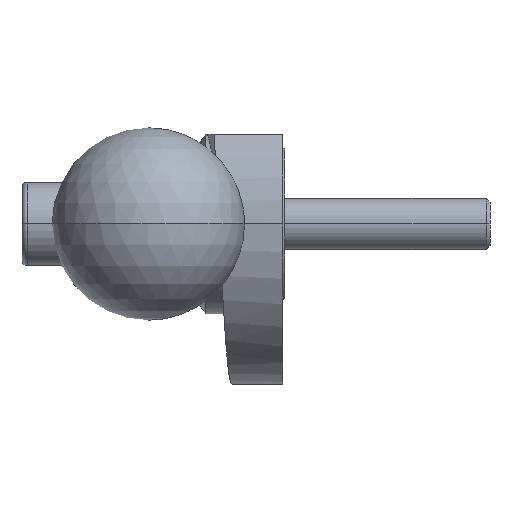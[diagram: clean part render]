
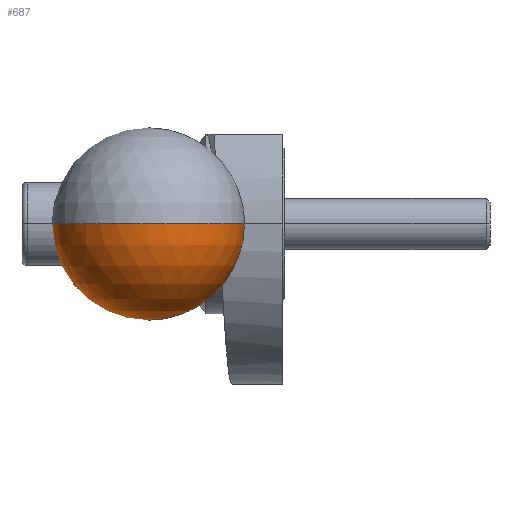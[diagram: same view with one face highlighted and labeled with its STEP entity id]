
A CAD part, left-side view. The second image highlights one B-rep face of the part: STEP entity #687.
In plain terms, the highlighted spherical face has radius 15 mm.
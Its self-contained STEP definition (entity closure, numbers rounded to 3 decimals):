
#65 = CARTESIAN_POINT ( 'NONE',  ( -101., 9., 0. ) ) ;
#155 = DIRECTION ( 'NONE',  ( 0., 1., 0. ) ) ;
#176 = DIRECTION ( 'NONE',  ( 1., 0., 0. ) ) ;
#285 = CARTESIAN_POINT ( 'NONE',  ( -116., 9., 0. ) ) ;
#357 = DIRECTION ( 'NONE',  ( 0., 0., -1. ) ) ;
#362 = DIRECTION ( 'NONE',  ( 1., 0., 0. ) ) ;
#366 = CARTESIAN_POINT ( 'NONE',  ( -101., 9., 0. ) ) ;
#474 = CARTESIAN_POINT ( 'NONE',  ( -88., 9., 0. ) ) ;
#475 = ORIENTED_EDGE ( 'NONE', *, *, #1664, .F. ) ;
#485 = VERTEX_POINT ( 'NONE', #285 ) ;
#518 = ORIENTED_EDGE ( 'NONE', *, *, #1148, .F. ) ;
#542 = ORIENTED_EDGE ( 'NONE', *, *, #1790, .T. ) ;
#543 = CIRCLE ( 'NONE', #1328, 7.483 ) ;
#687 = ADVANCED_FACE ( 'NONE', ( #1899 ), #1128, .T. ) ;
#872 = CIRCLE ( 'NONE', #1516, 15. ) ;
#984 = DIRECTION ( 'NONE',  ( 0., -1., 0. ) ) ;
#1002 = AXIS2_PLACEMENT_3D ( 'NONE', #366, #357, #984 ) ;
#1004 = DIRECTION ( 'NONE',  ( 0., 0., -1. ) ) ;
#1016 = DIRECTION ( 'NONE',  ( 0., 1., 0. ) ) ;
#1039 = CIRCLE ( 'NONE', #1257, 15. ) ;
#1128 = SPHERICAL_SURFACE ( 'NONE', #1002, 15. ) ;
#1136 = DIRECTION ( 'NONE',  ( 0., 0., 1. ) ) ;
#1147 = CARTESIAN_POINT ( 'NONE',  ( -101., 9., 0. ) ) ;
#1148 = EDGE_CURVE ( 'NONE', #485, #1677, #1039, .T. ) ;
#1151 = VERTEX_POINT ( 'NONE', #1930 ) ;
#1257 = AXIS2_PLACEMENT_3D ( 'NONE', #1147, #1136, #362 ) ;
#1328 = AXIS2_PLACEMENT_3D ( 'NONE', #474, #176, #155 ) ;
#1516 = AXIS2_PLACEMENT_3D ( 'NONE', #65, #1004, #1016 ) ;
#1664 = EDGE_CURVE ( 'NONE', #1677, #1151, #543, .T. ) ;
#1677 = VERTEX_POINT ( 'NONE', #2023 ) ;
#1790 = EDGE_CURVE ( 'NONE', #485, #1151, #872, .T. ) ;
#1899 = FACE_OUTER_BOUND ( 'NONE', #1923, .T. ) ;
#1923 = EDGE_LOOP ( 'NONE', ( #518, #542, #475 ) ) ;
#1930 = CARTESIAN_POINT ( 'NONE',  ( -88., 16.483, 0. ) ) ;
#2023 = CARTESIAN_POINT ( 'NONE',  ( -88., 1.517, 0. ) ) ;
